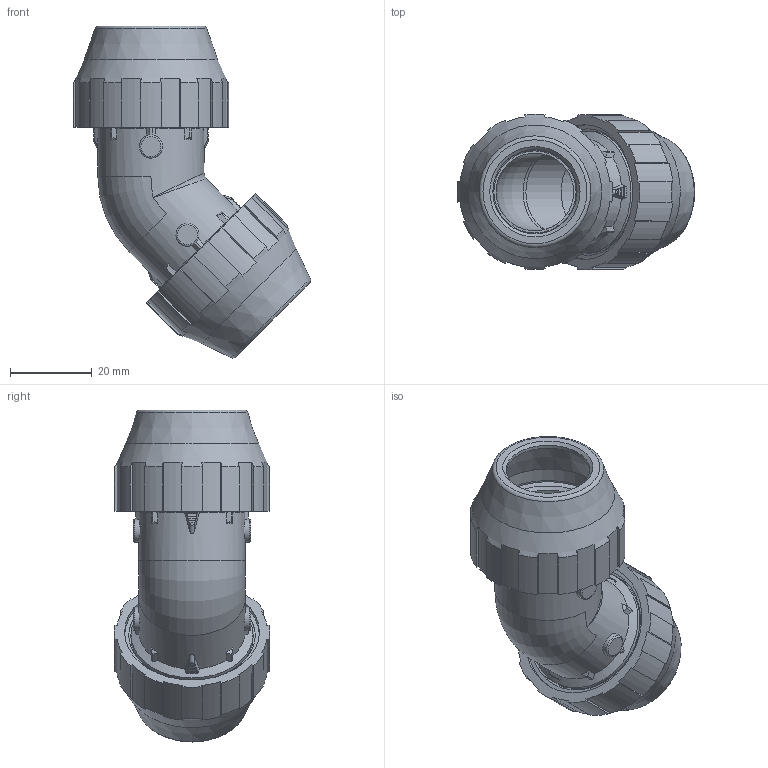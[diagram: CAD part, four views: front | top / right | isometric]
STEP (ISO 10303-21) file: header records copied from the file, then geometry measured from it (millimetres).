
FILE_DESCRIPTION( ( 'STEP AP214' ), '1' );
FILE_NAME( ' ', ' ', ( ' ' ), ( ' ' ), 'PSStep 11.0', 'VISI 17.0', ' ' );
FILE_SCHEMA( ( 'AUTOMOTIVE_DESIGN { 1 0 10303 214 1 1 1 1 }' ) );
Length unit declared in the file: millimetre
Products named in the file (11): 1; 2; 3; 4; 5; 6; 7; 8; 9; 10; 11
Bounding box: 58.06 x 37.96 x 81.22 mm (x, y, z)
Volume: 27890.2 mm3; surface area: 29849.2 mm2
Topology: 11 solids, 11 shells, 317 faces, 849 edges, 564 vertices
Faces by surface type: plane 160, cylinder 126, torus 16, cone 14, bspline 1
Full cylindrical faces by diameter (mm): 5.633 x4, 19 x2, 20.6 x4, 24.9 x2, 26 x2, 29.88 x2, 31 x2, 33 x4
Entity records: 12858 total; most frequent: CARTESIAN_POINT 2314, DIRECTION 1732, ORIENTED_EDGE 1554, EDGE_CURVE 777, AXIS2_PLACEMENT_3D 686, VERTEX_POINT 542, EDGE_LOOP 387, LINE 360
